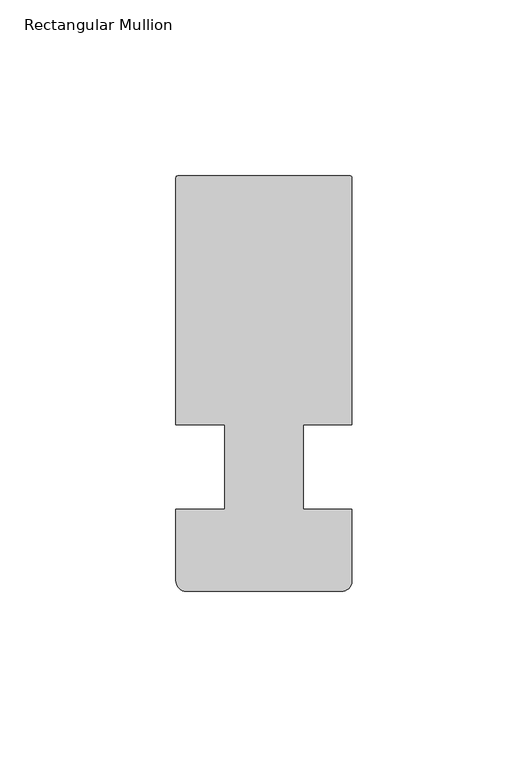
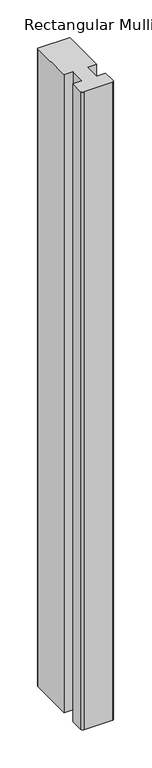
"""IFC4 building model written with IfcOpenShell, lengths in millimetres: member geometry, Rectangular Mullion : Reynaers horizontaal."""

import ifcopenshell
import ifcopenshell.guid

model = None  # the IFC model being written
_history = None  # IfcOwnerHistory: only IFC2X3 demands one
_inside = {}  # id of a spatial element -> (the spatial element, [elements in it])
_under = {}  # id of a project, library or spatial element -> (it, [spatial elements below it])
_declared = {}  # id of a project -> (the project, [libraries it declares])
_typed = {}  # id of a type object -> (the type object, [elements of that type])
_made_of = {}  # id of a material, layer set ... -> (it, [elements and type objects made of it])


def new_model(schema):
    """Start an empty IFC model of exactly this schema.

    Asked for "IFC4X3", IfcOpenShell would pick the latest addendum, in which some entities
    have other attributes; the version numbers below select the first issue.
    IFC2X3 requires an IfcOwnerHistory on every rooted entity: one is made here for all.
    """
    global model, _history
    if schema == "IFC4X3":
        model = ifcopenshell.file(schema_version=(4, 3, 0, 0))
    else:
        model = ifcopenshell.file(schema=schema)
    _inside.clear()
    _under.clear()
    _declared.clear()
    _typed.clear()
    _made_of.clear()
    _history = None
    if model.schema == "IFC2X3":
        org = make("IfcOrganization", Name="unknown")
        user = make(
            "IfcPersonAndOrganization",
            ThePerson=make("IfcPerson", FamilyName="unknown"),
            TheOrganization=org,
        )
        app = make(
            "IfcApplication",
            ApplicationDeveloper=org,
            Version="unknown",
            ApplicationFullName="unknown",
            ApplicationIdentifier="unknown",
        )
        _history = make(
            "IfcOwnerHistory",
            OwningUser=user,
            OwningApplication=app,
            ChangeAction="ADDED",
            CreationDate=0,
        )
    return model


def make(cls, **values):
    """One entity of the class cls with the attributes given. An attribute that is None is left unset."""
    return model.create_entity(
        cls, **{name: value for name, value in values.items() if value is not None}
    )


def rooted(cls, **values):
    """An entity with a GlobalId (a new one), such as an element, a storey or a relation."""
    return make(cls, GlobalId=ifcopenshell.guid.new(), OwnerHistory=_history, **values)


def si_unit(unit_type, name, prefix=None):
    """IfcSIUnit, for example si_unit("LENGTHUNIT", "METRE", prefix="MILLI")."""
    return make("IfcSIUnit", UnitType=unit_type, Prefix=prefix, Name=name)


def assignment(units):
    """IfcUnitAssignment: the units of a project."""
    return None if units is None else make("IfcUnitAssignment", Units=units)


def point(xyz):
    """IfcCartesianPoint."""
    return None if xyz is None else make("IfcCartesianPoint", Coordinates=xyz)


def direction(xyz):
    """IfcDirection."""
    return None if xyz is None else make("IfcDirection", DirectionRatios=xyz)


def frame(location, z_axis=None, x_axis=None):
    """IfcAxis2Placement3D, a coordinate frame: its origin and axes. An axis left out is left unset."""
    return make(
        "IfcAxis2Placement3D",
        Location=point(location),
        Axis=direction(z_axis),
        RefDirection=direction(x_axis),
    )


def frame_2d(location, x_axis=None):
    """IfcAxis2Placement2D, a coordinate frame in the plane: its origin and x axis."""
    return make(
        "IfcAxis2Placement2D", Location=point(location), RefDirection=direction(x_axis)
    )


def origin():
    """The frame at (0, 0, 0) with its axes left unset."""
    return frame((0.0, 0.0, 0.0))


def place(relative_to, where):
    """IfcLocalPlacement: puts the frame where relative to a parent placement (None: the world)."""
    return make(
        "IfcLocalPlacement", PlacementRelTo=relative_to, RelativePlacement=where
    )


def context(
    kind, dimensions, precision=None, world=None, true_north=None, identifier=None
):
    """IfcGeometricRepresentationContext, for example the 3D "Model" context."""
    return make(
        "IfcGeometricRepresentationContext",
        ContextIdentifier=identifier,
        ContextType=kind,
        CoordinateSpaceDimension=dimensions,
        Precision=precision,
        WorldCoordinateSystem=world,
        TrueNorth=true_north,
    )


def project(units=None, contexts=None):
    """IfcProject with its units and contexts."""
    return rooted(
        "IfcProject",
        Name="project",
        RepresentationContexts=contexts,
        UnitsInContext=assignment(units),
    )


def spatial(cls, under=None, at=None, **own):
    """A site, building, storey or space (cls), placed at a placement, below another one or the project."""
    s = rooted(cls, ObjectPlacement=at, **own)
    if under is not None:
        _under.setdefault(under.id(), (under, []))[1].append(s)
    return s


def polyline(points):
    """IfcPolyline through the points."""
    return make("IfcPolyline", Points=[point(p) for p in points])


def circle_curve(where, radius):
    """IfcCircle in the frame where."""
    return make("IfcCircle", Position=where, Radius=radius)


def trimmed(basis, trim1, trim2, sense, master):
    """IfcTrimmedCurve: the piece of a basis curve between two trims."""
    return make(
        "IfcTrimmedCurve",
        BasisCurve=basis,
        Trim1=trim1,
        Trim2=trim2,
        SenseAgreement=sense,
        MasterRepresentation=master,
    )


def segment(curve, same_sense, transition):
    """IfcCompositeCurveSegment."""
    return make(
        "IfcCompositeCurveSegment",
        Transition=transition,
        SameSense=same_sense,
        ParentCurve=curve,
    )


def composite_curve(segments, self_intersect=None):
    """IfcCompositeCurve: segments joined end to end."""
    return make("IfcCompositeCurve", Segments=segments, SelfIntersect=self_intersect)


def outline(outer, holes=None, kind="AREA"):
    """IfcArbitraryClosedProfileDef: a profile drawn as a closed curve; with holes, ...WithVoids."""
    if holes is None:
        return make("IfcArbitraryClosedProfileDef", ProfileType=kind, OuterCurve=outer)
    return make(
        "IfcArbitraryProfileDefWithVoids",
        ProfileType=kind,
        OuterCurve=outer,
        InnerCurves=holes,
    )


def extrude(swept, where, along, depth):
    """IfcExtrudedAreaSolid: the profile swept, set in the frame where, extruded along a direction by depth."""
    return make(
        "IfcExtrudedAreaSolid",
        SweptArea=swept,
        Position=where,
        ExtrudedDirection=direction(along),
        Depth=depth,
    )


def shape(context_of_items, identifier, shape_type, items):
    """IfcShapeRepresentation: the items that make up one representation, for example the "Body"."""
    return make(
        "IfcShapeRepresentation",
        ContextOfItems=context_of_items,
        RepresentationIdentifier=identifier,
        RepresentationType=shape_type,
        Items=items,
    )


def source(mapping_origin, context_of_items, identifier, shape_type, items):
    """IfcRepresentationMap: a shape defined once, which mapped items show again and again."""
    return make(
        "IfcRepresentationMap",
        MappingOrigin=mapping_origin,
        MappedRepresentation=shape(context_of_items, identifier, shape_type, items),
    )


def transform(
    local_origin,
    x_axis=None,
    y_axis=None,
    z_axis=None,
    scale=None,
    scale2=None,
    scale3=None,
    uniform=True,
):
    """IfcCartesianTransformationOperator3D, or its non-uniform kind. x_axis, y_axis, z_axis: its Axis1, 2, 3."""
    if uniform:
        return make(
            "IfcCartesianTransformationOperator3D",
            Axis1=direction(x_axis),
            Axis2=direction(y_axis),
            LocalOrigin=point(local_origin),
            Scale=scale,
            Axis3=direction(z_axis),
        )
    return make(
        "IfcCartesianTransformationOperator3DnonUniform",
        Axis1=direction(x_axis),
        Axis2=direction(y_axis),
        LocalOrigin=point(local_origin),
        Scale=scale,
        Axis3=direction(z_axis),
        Scale2=scale2,
        Scale3=scale3,
    )


def mapped(mapping_source, mapping_target):
    """IfcMappedItem: shows the shape of a source again, moved by a transform."""
    return make(
        "IfcMappedItem", MappingSource=mapping_source, MappingTarget=mapping_target
    )


def made_of(thing, what):
    """Note that an element or type object is made of a material, layer set ...; save() writes the relation."""
    if what is not None:
        _made_of.setdefault(what.id(), (what, []))[1].append(thing)
    return thing


def element(
    cls,
    number,
    at=None,
    inside=None,
    cuts=None,
    type_object=None,
    material=None,
    context=None,
    identifier="Body",
    shape_type=None,
    held_by="IfcProductDefinitionShape",
    body=None,
    shapes=None,
    **own,
):
    """One element of the class cls, such as IfcWall. Its Tag is "e" and its number.

    at: its placement. inside: the storey or other place that contains it. cuts: it is an
    opening in that element (IfcRelVoidsElement). A single representation is given by context,
    identifier, shape_type and body (its items); several are given by shapes. held_by: the class
    of the entity that holds the representations. save() writes the other relations.
    """
    e = rooted(cls, Tag="e%d" % number, ObjectPlacement=at, **own)
    if body is not None:
        shapes = [shape(context, identifier, shape_type, body)]
    if shapes is not None:
        e.Representation = make(held_by, Representations=shapes)
    if inside is not None:
        _inside.setdefault(inside.id(), (inside, []))[1].append(e)
    if cuts is not None:
        rooted(
            "IfcRelVoidsElement", RelatingBuildingElement=cuts, RelatedOpeningElement=e
        )
    if type_object is not None:
        _typed.setdefault(type_object.id(), (type_object, []))[1].append(e)
    return made_of(e, material)


def aggregate(whole, parts):
    """IfcRelAggregates: a whole, such as a stair, and the parts it consists of."""
    return rooted("IfcRelAggregates", RelatingObject=whole, RelatedObjects=parts)


def save(model, path):
    """Write the relations noted so far, then the file.

    IfcRelAggregates (storeys below a building ...), IfcRelContainedInSpatialStructure (elements
    in a storey), IfcRelDefinesByType, IfcRelAssociatesMaterial and IfcRelDeclares: one each for
    every whole, place, type object, material and project.
    """
    for whole, parts in _under.values():
        aggregate(whole, parts)
    for where, things in _inside.values():
        rooted(
            "IfcRelContainedInSpatialStructure",
            RelatedElements=things,
            RelatingStructure=where,
        )
    for kind, things in _typed.values():
        rooted("IfcRelDefinesByType", RelatedObjects=things, RelatingType=kind)
    for what, things in _made_of.values():
        rooted("IfcRelAssociatesMaterial", RelatedObjects=things, RelatingMaterial=what)
    for by, libraries in _declared.values():
        rooted("IfcRelDeclares", RelatingContext=by, RelatedDefinitions=libraries)
    model.write(path)


def rectangular_mullion_9417e5ac(model_context):
    return source(origin(), model_context, "Body", "SweptSolid", [
        extrude(outline(composite_curve([segment(trimmed(circle_curve(frame_2d((-2.9996379, -32.3295348)), 2.9994379), [point((-0.0121, -32.5964522))], [point((-2.9996379, -35.3289727))], False, "CARTESIAN"), True, "CONTINUOUS"), segment(polyline([(-2.9996379, -35.3289727), (-46.9998988, -35.3289727)]), True, "CONTINUOUS"), segment(trimmed(circle_curve(frame_2d((-46.9998988, -32.3289715)), 3.0000012), [point((-46.9998988, -35.3289727))], [point((-49.9999, -32.3289715))], False, "CARTESIAN"), True, "CONTINUOUS"), segment(polyline([(-49.9999, -32.3289715), (-49.9999, -12.0020175), (-36.1919283, -12.0020175), (-36.1919283, 11.9979825), (-50.0, 11.9979825), (-50.0, 82.1989884)]), True, "CONTINUOUS"), segment(trimmed(circle_curve(frame_2d((-49.4999884, 82.1989884)), 0.5000116), [point((-50.0, 82.1989884))], [point((-49.4999884, 82.699))], False, "CARTESIAN"), True, "CONTINUOUS"), segment(polyline([(-49.4999884, 82.699), (-0.5000116, 82.699)]), True, "CONTINUOUS"), segment(trimmed(circle_curve(frame_2d((-0.5000116, 82.1989884)), 0.5000116), [point((-0.5000116, 82.699))], [point((0.0, 82.1989884))], False, "CARTESIAN"), True, "CONTINUOUS"), segment(polyline([(0.0, 82.1989884), (0.0, 11.999), (-13.8080717, 11.999), (-13.8080717, -12.001), (-0.0121, -12.001), (-0.0121, -32.5964522)]), True, "CONTINUOUS")], self_intersect=False)), frame((0.0, 0.0, -1033.3333333), z_axis=(0.0, 0.0, 1.0), x_axis=(1.0, 0.0, 0.0)), (0.0, 0.0, 1.0), 1033.3333333),
    ])


if __name__ == "__main__":
    model = new_model("IFC4")
    model_context = context("Model", 3, world=origin())
    ifc_project = project(units=[si_unit("LENGTHUNIT", "METRE", prefix="MILLI")], contexts=[model_context])
    site = spatial("IfcSite", under=ifc_project)
    building = spatial("IfcBuilding", under=site)
    placement = place(None, origin())
    rectangular_mullion_shape = rectangular_mullion_9417e5ac(model_context)
    element("IfcMember", 1, ObjectType="Rectangular Mullion : Reynaers horizontaal", at=placement, inside=building, context=model_context, shape_type="MappedRepresentation", body=[
        mapped(rectangular_mullion_shape, transform((0.0, 0.0, 0.0), x_axis=(1.0, 0.0, 0.0), y_axis=(0.0, 1.0, 0.0), z_axis=(0.0, 0.0, 1.0))),
    ])
    save(model, "model.ifc")
